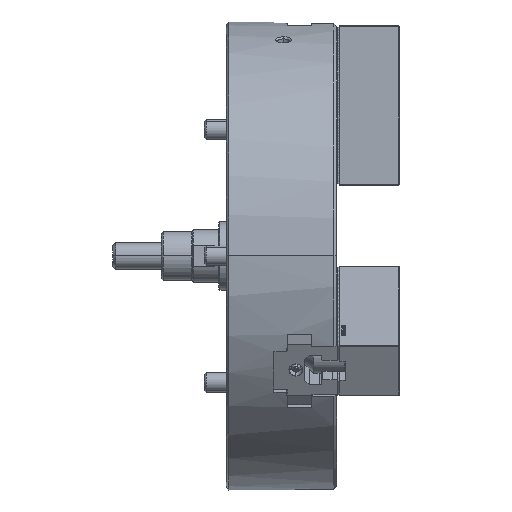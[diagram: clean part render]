
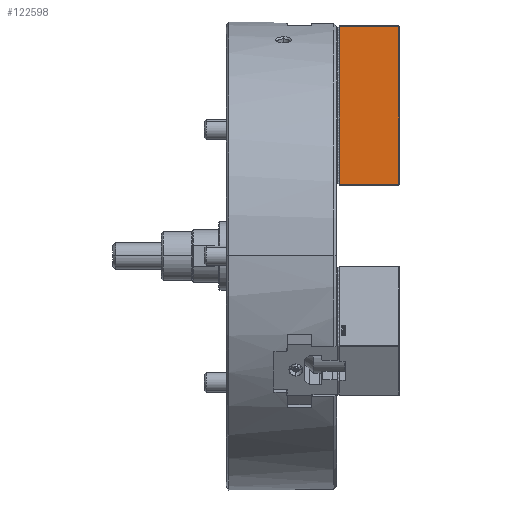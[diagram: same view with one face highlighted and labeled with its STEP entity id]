
A CAD part, top view. The second image highlights one B-rep face of the part: STEP entity #122598.
In plain terms, the highlighted planar face has unit normal (0, 0, 1).
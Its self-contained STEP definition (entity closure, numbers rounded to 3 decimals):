
#5008 = VECTOR ( 'NONE', #42241, 1000. ) ;
#18818 = FACE_OUTER_BOUND ( 'NONE', #49826, .T. ) ;
#23353 = DIRECTION ( 'NONE',  ( 0., 0., -1. ) ) ;
#34591 = ORIENTED_EDGE ( 'NONE', *, *, #84729, .F. ) ;
#42241 = DIRECTION ( 'NONE',  ( -1., 0., 0. ) ) ;
#44096 = LINE ( 'NONE', #82250, #141701 ) ;
#49826 = EDGE_LOOP ( 'NONE', ( #34591, #155457, #184767, #112733 ) ) ;
#56532 = VERTEX_POINT ( 'NONE', #68950 ) ;
#61392 = AXIS2_PLACEMENT_3D ( 'NONE', #142702, #23353, #91741 ) ;
#68950 = CARTESIAN_POINT ( 'NONE',  ( 2.5, 179.4, 32.5 ) ) ;
#73554 = VERTEX_POINT ( 'NONE', #113451 ) ;
#82250 = CARTESIAN_POINT ( 'NONE',  ( 2.5, 180., 32.5 ) ) ;
#83847 = VERTEX_POINT ( 'NONE', #208844 ) ;
#84729 = EDGE_CURVE ( 'NONE', #156884, #83847, #153330, .T. ) ;
#91156 = CARTESIAN_POINT ( 'NONE',  ( 69.4, 0.6, 32.5 ) ) ;
#91741 = DIRECTION ( 'NONE',  ( -1., 0., 0. ) ) ;
#93962 = EDGE_CURVE ( 'NONE', #156884, #73554, #213922, .T. ) ;
#111177 = LINE ( 'NONE', #126284, #138553 ) ;
#111388 = PLANE ( 'NONE',  #61392 ) ;
#112307 = DIRECTION ( 'NONE',  ( -1., 0., 0. ) ) ;
#112733 = ORIENTED_EDGE ( 'NONE', *, *, #185052, .T. ) ;
#113451 = CARTESIAN_POINT ( 'NONE',  ( 69.4, 179.4, 32.5 ) ) ;
#114281 = VECTOR ( 'NONE', #201071, 1000. ) ;
#122598 = ADVANCED_FACE ( 'NONE', ( #18818 ), #111388, .F. ) ;
#126284 = CARTESIAN_POINT ( 'NONE',  ( 70., 179.4, 32.5 ) ) ;
#138553 = VECTOR ( 'NONE', #112307, 1000. ) ;
#141701 = VECTOR ( 'NONE', #169156, 1000. ) ;
#142702 = CARTESIAN_POINT ( 'NONE',  ( 70., 0.6, 32.5 ) ) ;
#153330 = LINE ( 'NONE', #188121, #5008 ) ;
#155457 = ORIENTED_EDGE ( 'NONE', *, *, #93962, .T. ) ;
#156884 = VERTEX_POINT ( 'NONE', #159778 ) ;
#159778 = CARTESIAN_POINT ( 'NONE',  ( 69.4, 0.6, 32.5 ) ) ;
#169156 = DIRECTION ( 'NONE',  ( 0., -1., 0. ) ) ;
#184767 = ORIENTED_EDGE ( 'NONE', *, *, #210790, .T. ) ;
#185052 = EDGE_CURVE ( 'NONE', #56532, #83847, #44096, .T. ) ;
#188121 = CARTESIAN_POINT ( 'NONE',  ( 70., 0.6, 32.5 ) ) ;
#201071 = DIRECTION ( 'NONE',  ( 0., 1., 0. ) ) ;
#208844 = CARTESIAN_POINT ( 'NONE',  ( 2.5, 0.6, 32.5 ) ) ;
#210790 = EDGE_CURVE ( 'NONE', #73554, #56532, #111177, .T. ) ;
#213922 = LINE ( 'NONE', #91156, #114281 ) ;
